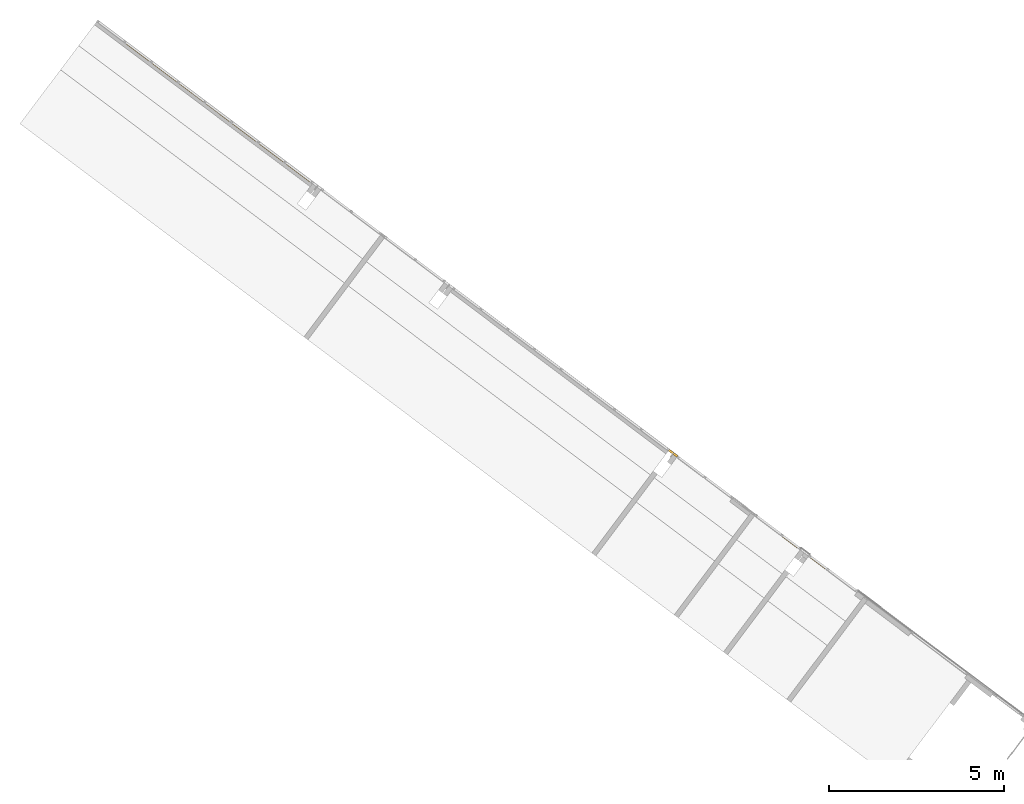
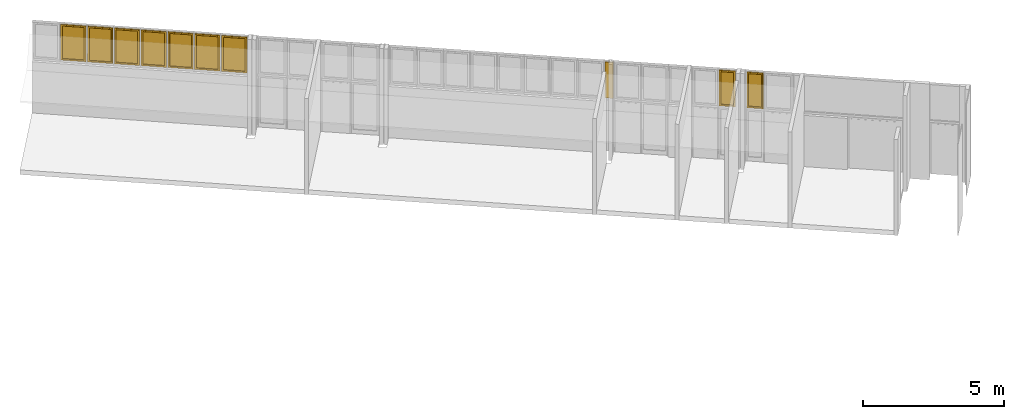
# One storey, part 11 of 18: 9 windows, 1 door, 1 element without a shape of its own.
"""IFC2X3 building model written with IfcOpenShell, lengths in metres."""

import ifcopenshell
import ifcopenshell.guid

model = None  # the IFC model being written
_history = None  # IfcOwnerHistory: only IFC2X3 demands one
_inside = {}  # id of a spatial element -> (the spatial element, [elements in it])
_under = {}  # id of a project, library or spatial element -> (it, [spatial elements below it])
_declared = {}  # id of a project -> (the project, [libraries it declares])
_typed = {}  # id of a type object -> (the type object, [elements of that type])
_made_of = {}  # id of a material, layer set ... -> (it, [elements and type objects made of it])


def new_model(schema):
    """Start an empty IFC model of exactly this schema.

    Asked for "IFC4X3", IfcOpenShell would pick the latest addendum, in which some entities
    have other attributes; the version numbers below select the first issue.
    IFC2X3 requires an IfcOwnerHistory on every rooted entity: one is made here for all.
    """
    global model, _history
    if schema == "IFC4X3":
        model = ifcopenshell.file(schema_version=(4, 3, 0, 0))
    else:
        model = ifcopenshell.file(schema=schema)
    _inside.clear()
    _under.clear()
    _declared.clear()
    _typed.clear()
    _made_of.clear()
    _history = None
    if model.schema == "IFC2X3":
        org = make("IfcOrganization", Name="unknown")
        user = make(
            "IfcPersonAndOrganization",
            ThePerson=make("IfcPerson", FamilyName="unknown"),
            TheOrganization=org,
        )
        app = make(
            "IfcApplication",
            ApplicationDeveloper=org,
            Version="unknown",
            ApplicationFullName="unknown",
            ApplicationIdentifier="unknown",
        )
        _history = make(
            "IfcOwnerHistory",
            OwningUser=user,
            OwningApplication=app,
            ChangeAction="ADDED",
            CreationDate=0,
        )
    return model


def make(cls, **values):
    """One entity of the class cls with the attributes given. An attribute that is None is left unset."""
    return model.create_entity(
        cls, **{name: value for name, value in values.items() if value is not None}
    )


def entity(cls, *values):
    """Any entity or typed value of the class cls, its attributes in the order of the schema. None: left unset."""
    e = model.create_entity(cls)
    for i, value in enumerate(values):
        if value is not None:
            e[i] = value
    return e


def rooted(cls, **values):
    """An entity with a GlobalId (a new one), such as an element, a storey or a relation."""
    return make(cls, GlobalId=ifcopenshell.guid.new(), OwnerHistory=_history, **values)


def si_unit(unit_type, name, prefix=None):
    """IfcSIUnit, for example si_unit("LENGTHUNIT", "METRE", prefix="MILLI")."""
    return make("IfcSIUnit", UnitType=unit_type, Prefix=prefix, Name=name)


def converted_unit(unit_type, name, factor, base, dimensions=None, offset=None):
    """IfcConversionBasedUnit, such as the inch: factor (a typed value) times the base unit."""
    return make(
        "IfcConversionBasedUnit"
        if offset is None
        else "IfcConversionBasedUnitWithOffset",
        ConversionOffset=offset,
        Dimensions=None
        if dimensions is None
        else entity("IfcDimensionalExponents", *dimensions),
        UnitType=unit_type,
        Name=name,
        ConversionFactor=make(
            "IfcMeasureWithUnit", ValueComponent=factor, UnitComponent=base
        ),
    )


def derived_unit(unit_type, elements):
    """IfcDerivedUnit: a product of units, each with its exponent."""
    return make(
        "IfcDerivedUnit",
        Elements=[
            make("IfcDerivedUnitElement", Unit=unit, Exponent=power)
            for unit, power in elements
        ],
        UnitType=unit_type,
    )


def assignment(units):
    """IfcUnitAssignment: the units of a project."""
    return None if units is None else make("IfcUnitAssignment", Units=units)


def point(xyz):
    """IfcCartesianPoint."""
    return None if xyz is None else make("IfcCartesianPoint", Coordinates=xyz)


def direction(xyz):
    """IfcDirection."""
    return None if xyz is None else make("IfcDirection", DirectionRatios=xyz)


def frame(location, z_axis=None, x_axis=None):
    """IfcAxis2Placement3D, a coordinate frame: its origin and axes. An axis left out is left unset."""
    return make(
        "IfcAxis2Placement3D",
        Location=point(location),
        Axis=direction(z_axis),
        RefDirection=direction(x_axis),
    )


def frame_2d(location, x_axis=None):
    """IfcAxis2Placement2D, a coordinate frame in the plane: its origin and x axis."""
    return make(
        "IfcAxis2Placement2D", Location=point(location), RefDirection=direction(x_axis)
    )


def origin():
    """The frame at (0, 0, 0) with its axes left unset."""
    return frame((0.0, 0.0, 0.0))


def origin_2d_with_axis():
    """The frame at (0, 0) in the plane with the x axis (1, 0) written out."""
    return frame_2d((0.0, 0.0), x_axis=(1.0, 0.0))


def place(relative_to, where):
    """IfcLocalPlacement: puts the frame where relative to a parent placement (None: the world)."""
    return make(
        "IfcLocalPlacement", PlacementRelTo=relative_to, RelativePlacement=where
    )


def context(
    kind, dimensions, precision=None, world=None, true_north=None, identifier=None
):
    """IfcGeometricRepresentationContext, for example the 3D "Model" context."""
    return make(
        "IfcGeometricRepresentationContext",
        ContextIdentifier=identifier,
        ContextType=kind,
        CoordinateSpaceDimension=dimensions,
        Precision=precision,
        WorldCoordinateSystem=world,
        TrueNorth=true_north,
    )


def subcontext(parent, identifier, kind, view, scale=None):
    """IfcGeometricRepresentationSubContext, for example "Body" below "Model"."""
    return make(
        "IfcGeometricRepresentationSubContext",
        ContextIdentifier=identifier,
        ContextType=kind,
        ParentContext=parent,
        TargetScale=scale,
        TargetView=view,
    )


def project(units=None, contexts=None):
    """IfcProject with its units and contexts."""
    return rooted(
        "IfcProject",
        Name="project",
        RepresentationContexts=contexts,
        UnitsInContext=assignment(units),
    )


def spatial(cls, under=None, at=None, **own):
    """A site, building, storey or space (cls), placed at a placement, below another one or the project."""
    s = rooted(cls, ObjectPlacement=at, **own)
    if under is not None:
        _under.setdefault(under.id(), (under, []))[1].append(s)
    return s


def profile(cls, at=None, kind="AREA", **sizes):
    """A parametric profile (cls). Its sizes go by their IFC names, for example OverallWidth=200.0."""
    return make(cls, ProfileType=kind, Position=at, **sizes)


def rectangle(**sizes):
    """IfcRectangleProfileDef."""
    return profile("IfcRectangleProfileDef", **sizes)


def extrude(swept, where, along, depth):
    """IfcExtrudedAreaSolid: the profile swept, set in the frame where, extruded along a direction by depth."""
    return make(
        "IfcExtrudedAreaSolid",
        SweptArea=swept,
        Position=where,
        ExtrudedDirection=direction(along),
        Depth=depth,
    )


def faces_of(points, faces, orient=None, outer=None):
    """IfcFace entities. A face is a list of loops; a loop is a list of indices into points, from 0.

    orient and outer hold one flag for each loop. By default every Orientation is true, the
    first loop of a face is its IfcFaceOuterBound and the others are IfcFaceBound.
    """
    made = []
    for i, loops in enumerate(faces):
        bounds = []
        for j, loop in enumerate(loops):
            is_outer = j == 0 if outer is None else outer[i][j]
            bounds.append(
                make(
                    "IfcFaceOuterBound" if is_outer else "IfcFaceBound",
                    Bound=make("IfcPolyLoop", Polygon=[points[k] for k in loop]),
                    Orientation=True if orient is None else orient[i][j],
                )
            )
        made.append(make("IfcFace", Bounds=bounds))
    return made


def faceted_brep(points, faces, orient=None, outer=None, voids=None):
    """IfcFacetedBrep: a solid bounded by flat faces; with voids (closed shells), ...WithVoids."""
    shared = [point(p) for p in points]
    hull = make("IfcClosedShell", CfsFaces=faces_of(shared, faces, orient, outer))
    if voids is None:
        return make("IfcFacetedBrep", Outer=hull)
    return make(
        "IfcFacetedBrepWithVoids",
        Outer=hull,
        Voids=[
            make(cls, CfsFaces=faces_of(shared, fs, o, b)) for cls, fs, o, b in voids
        ],
    )


def shape(context_of_items, identifier, shape_type, items):
    """IfcShapeRepresentation: the items that make up one representation, for example the "Body"."""
    return make(
        "IfcShapeRepresentation",
        ContextOfItems=context_of_items,
        RepresentationIdentifier=identifier,
        RepresentationType=shape_type,
        Items=items,
    )


def source(mapping_origin, context_of_items, identifier, shape_type, items):
    """IfcRepresentationMap: a shape defined once, which mapped items show again and again."""
    return make(
        "IfcRepresentationMap",
        MappingOrigin=mapping_origin,
        MappedRepresentation=shape(context_of_items, identifier, shape_type, items),
    )


def transform(
    local_origin,
    x_axis=None,
    y_axis=None,
    z_axis=None,
    scale=None,
    scale2=None,
    scale3=None,
    uniform=True,
):
    """IfcCartesianTransformationOperator3D, or its non-uniform kind. x_axis, y_axis, z_axis: its Axis1, 2, 3."""
    if uniform:
        return make(
            "IfcCartesianTransformationOperator3D",
            Axis1=direction(x_axis),
            Axis2=direction(y_axis),
            LocalOrigin=point(local_origin),
            Scale=scale,
            Axis3=direction(z_axis),
        )
    return make(
        "IfcCartesianTransformationOperator3DnonUniform",
        Axis1=direction(x_axis),
        Axis2=direction(y_axis),
        LocalOrigin=point(local_origin),
        Scale=scale,
        Axis3=direction(z_axis),
        Scale2=scale2,
        Scale3=scale3,
    )


def mapped(mapping_source, mapping_target):
    """IfcMappedItem: shows the shape of a source again, moved by a transform."""
    return make(
        "IfcMappedItem", MappingSource=mapping_source, MappingTarget=mapping_target
    )


def material(Name=None, Category=None):
    """IfcMaterial."""
    return make("IfcMaterial", Name=Name, Category=Category)


def material_list(materials):
    """IfcMaterialList."""
    return make("IfcMaterialList", Materials=materials)


def made_of(thing, what):
    """Note that an element or type object is made of a material, layer set ...; save() writes the relation."""
    if what is not None:
        _made_of.setdefault(what.id(), (what, []))[1].append(thing)
    return thing


def type_object(cls, material=None, **own):
    """A type object (cls), such as IfcWallType, which elements share."""
    return made_of(rooted(cls, **own), material)


def type_shapes(of_type, sources):
    """Give a type object the sources (RepresentationMaps) that its elements show as mapped items."""
    of_type.RepresentationMaps = sources


def element(
    cls,
    number,
    at=None,
    inside=None,
    cuts=None,
    type_object=None,
    material=None,
    context=None,
    identifier="Body",
    shape_type=None,
    held_by="IfcProductDefinitionShape",
    body=None,
    shapes=None,
    **own,
):
    """One element of the class cls, such as IfcWall. Its Tag is "e" and its number.

    at: its placement. inside: the storey or other place that contains it. cuts: it is an
    opening in that element (IfcRelVoidsElement). A single representation is given by context,
    identifier, shape_type and body (its items); several are given by shapes. held_by: the class
    of the entity that holds the representations. save() writes the other relations.
    """
    e = rooted(cls, Tag="e%d" % number, ObjectPlacement=at, **own)
    if body is not None:
        shapes = [shape(context, identifier, shape_type, body)]
    if shapes is not None:
        e.Representation = make(held_by, Representations=shapes)
    if inside is not None:
        _inside.setdefault(inside.id(), (inside, []))[1].append(e)
    if cuts is not None:
        rooted(
            "IfcRelVoidsElement", RelatingBuildingElement=cuts, RelatedOpeningElement=e
        )
    if type_object is not None:
        _typed.setdefault(type_object.id(), (type_object, []))[1].append(e)
    return made_of(e, material)


def aggregate(whole, parts):
    """IfcRelAggregates: a whole, such as a stair, and the parts it consists of."""
    return rooted("IfcRelAggregates", RelatingObject=whole, RelatedObjects=parts)


def save(model, path):
    """Write the relations noted so far, then the file.

    IfcRelAggregates (storeys below a building ...), IfcRelContainedInSpatialStructure (elements
    in a storey), IfcRelDefinesByType, IfcRelAssociatesMaterial and IfcRelDeclares: one each for
    every whole, place, type object, material and project.
    """
    for whole, parts in _under.values():
        aggregate(whole, parts)
    for where, things in _inside.values():
        rooted(
            "IfcRelContainedInSpatialStructure",
            RelatedElements=things,
            RelatingStructure=where,
        )
    for kind, things in _typed.values():
        rooted("IfcRelDefinesByType", RelatedObjects=things, RelatingType=kind)
    for what, things in _made_of.values():
        rooted("IfcRelAssociatesMaterial", RelatedObjects=things, RelatingMaterial=what)
    for by, libraries in _declared.values():
        rooted("IfcRelDeclares", RelatingContext=by, RelatedDefinitions=libraries)
    model.write(path)


model = new_model("IFC2X3")

# Units and contexts
model_context = context("Model", 3, precision=1e-05, world=origin(), true_north=direction((6.123031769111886e-17, 1.0)))
body_context = subcontext(model_context, "Body", "Model", "MODEL_VIEW")
ifc_project = project(units=[si_unit("LENGTHUNIT", "METRE"), si_unit("AREAUNIT", "SQUARE_METRE"), si_unit("VOLUMEUNIT", "CUBIC_METRE"), converted_unit("PLANEANGLEUNIT", "DEGREE", entity("IfcRatioMeasure", 0.017453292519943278), si_unit("PLANEANGLEUNIT", "RADIAN"), dimensions=[0, 0, 0, 0, 0, 0, 0]), si_unit("MASSUNIT", "GRAM", prefix="KILO"), derived_unit("MASSDENSITYUNIT", [(si_unit("MASSUNIT", "GRAM", prefix="KILO"), 1), (si_unit("LENGTHUNIT", "METRE"), -3)]), derived_unit("IONCONCENTRATIONUNIT", [(si_unit("MASSUNIT", "GRAM", prefix="KILO"), 1), (si_unit("LENGTHUNIT", "METRE"), -3)]), derived_unit("MOMENTOFINERTIAUNIT", [(si_unit("LENGTHUNIT", "METRE"), 4)]), si_unit("TIMEUNIT", "SECOND"), si_unit("FREQUENCYUNIT", "HERTZ"), si_unit("THERMODYNAMICTEMPERATUREUNIT", "DEGREE_CELSIUS"), derived_unit("THERMALTRANSMITTANCEUNIT", [(si_unit("MASSUNIT", "GRAM", prefix="KILO"), 1), (si_unit("THERMODYNAMICTEMPERATUREUNIT", "KELVIN"), -1), (si_unit("TIMEUNIT", "SECOND"), -3)]), derived_unit("THERMALCONDUCTANCEUNIT", [(si_unit("MASSUNIT", "GRAM", prefix="KILO"), 1), (si_unit("THERMODYNAMICTEMPERATUREUNIT", "KELVIN"), -1), (si_unit("TIMEUNIT", "SECOND"), -3), (si_unit("LENGTHUNIT", "METRE"), 1)]), derived_unit("VOLUMETRICFLOWRATEUNIT", [(si_unit("LENGTHUNIT", "METRE"), 3), (si_unit("TIMEUNIT", "SECOND"), -1)]), derived_unit("MASSFLOWRATEUNIT", [(si_unit("MASSUNIT", "GRAM", prefix="KILO"), 1), (si_unit("TIMEUNIT", "SECOND"), -1)]), derived_unit("ROTATIONALFREQUENCYUNIT", [(si_unit("TIMEUNIT", "SECOND"), -1)]), si_unit("ELECTRICCURRENTUNIT", "AMPERE"), si_unit("ELECTRICVOLTAGEUNIT", "VOLT"), si_unit("POWERUNIT", "WATT"), si_unit("FORCEUNIT", "NEWTON", prefix="KILO"), si_unit("ILLUMINANCEUNIT", "LUX"), si_unit("LUMINOUSFLUXUNIT", "LUMEN"), si_unit("LUMINOUSINTENSITYUNIT", "CANDELA"), derived_unit("USERDEFINED", [(si_unit("MASSUNIT", "GRAM", prefix="KILO"), -1), (si_unit("LENGTHUNIT", "METRE"), -2), (si_unit("TIMEUNIT", "SECOND"), 3), (si_unit("LUMINOUSFLUXUNIT", "LUMEN"), 1)]), derived_unit("USERDEFINED", [(si_unit("MASSUNIT", "GRAM", prefix="KILO"), 1), (si_unit("TIMEUNIT", "SECOND"), -3), (si_unit("LENGTHUNIT", "METRE"), 3), (si_unit("ELECTRICCURRENTUNIT", "AMPERE"), -2)]), derived_unit("SOUNDPOWERUNIT", [(si_unit("MASSUNIT", "GRAM", prefix="KILO"), 1), (si_unit("TIMEUNIT", "SECOND"), -3), (si_unit("LENGTHUNIT", "METRE"), 2)]), derived_unit("SOUNDPRESSUREUNIT", [(si_unit("MASSUNIT", "GRAM", prefix="KILO"), 1), (si_unit("LENGTHUNIT", "METRE"), -1), (si_unit("TIMEUNIT", "SECOND"), -2)]), derived_unit("LINEARVELOCITYUNIT", [(si_unit("LENGTHUNIT", "METRE"), 1), (si_unit("TIMEUNIT", "SECOND"), -1)]), si_unit("PRESSUREUNIT", "PASCAL"), derived_unit("USERDEFINED", [(si_unit("MASSUNIT", "GRAM", prefix="KILO"), 1), (si_unit("LENGTHUNIT", "METRE"), -2), (si_unit("TIMEUNIT", "SECOND"), -2)]), derived_unit("LINEARFORCEUNIT", [(si_unit("MASSUNIT", "GRAM", prefix="KILO"), 1), (si_unit("TIMEUNIT", "SECOND"), -2)]), derived_unit("PLANARFORCEUNIT", [(si_unit("MASSUNIT", "GRAM", prefix="KILO"), 1), (si_unit("LENGTHUNIT", "METRE"), -1), (si_unit("TIMEUNIT", "SECOND"), -2)]), derived_unit("SPECIFICHEATCAPACITYUNIT", [(si_unit("THERMODYNAMICTEMPERATUREUNIT", "KELVIN"), -1), (si_unit("LENGTHUNIT", "METRE"), 2), (si_unit("TIMEUNIT", "SECOND"), -2)]), derived_unit("HEATINGVALUEUNIT", [(si_unit("LENGTHUNIT", "METRE"), 2), (si_unit("TIMEUNIT", "SECOND"), -2)]), derived_unit("VAPORPERMEABILITYUNIT", [(si_unit("LENGTHUNIT", "METRE"), -1), (si_unit("TIMEUNIT", "SECOND"), 1)]), derived_unit("DYNAMICVISCOSITYUNIT", [(si_unit("MASSUNIT", "GRAM", prefix="KILO"), 1), (si_unit("TIMEUNIT", "SECOND"), -1), (si_unit("LENGTHUNIT", "METRE"), -1)]), derived_unit("THERMALEXPANSIONCOEFFICIENTUNIT", [(si_unit("THERMODYNAMICTEMPERATUREUNIT", "KELVIN"), -1)]), derived_unit("MODULUSOFELASTICITYUNIT", [(si_unit("MASSUNIT", "GRAM", prefix="KILO"), 1), (si_unit("LENGTHUNIT", "METRE"), -1), (si_unit("TIMEUNIT", "SECOND"), -2)]), derived_unit("ISOTHERMALMOISTURECAPACITYUNIT", [(si_unit("LENGTHUNIT", "METRE"), 3), (si_unit("MASSUNIT", "GRAM", prefix="KILO"), -1)]), derived_unit("MOISTUREDIFFUSIVITYUNIT", [(si_unit("TIMEUNIT", "SECOND"), -1), (si_unit("LENGTHUNIT", "METRE"), 2)])], contexts=[model_context])

# Site, building, storey
site_placement = place(None, frame((0.0, 0.0, 235.0), z_axis=(0.0, 0.0, 1.0), x_axis=(-0.7996477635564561, 0.6004693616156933, 0.0)))
site = spatial("IfcSite", under=ifc_project, at=site_placement, Name="Default", CompositionType="ELEMENT")
building_placement = place(site_placement, origin())
building = spatial("IfcBuilding", under=site, at=building_placement, CompositionType="ELEMENT")
storey_placement = place(building_placement, frame((0.0, 0.0, -4.459999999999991)))
storey = spatial("IfcBuildingStorey", under=building, at=storey_placement, Name="PS1- Vestuari", CompositionType="ELEMENT", Elevation=-4.459999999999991)

# Curtain wall, windows, door
curtain_wall_type = type_object("IfcCurtainWallType", Name="Muro cortina:MC- EXT- AL6", PredefinedType="NOTDEFINED")
curtain_wall_placement = place(storey_placement, frame((0.0, 0.0, 4.459999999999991)))
curtain_wall = element("IfcCurtainWall", 1, at=curtain_wall_placement, inside=storey, type_object=curtain_wall_type, Name="Muro cortina:MC- EXT- AL6", ObjectType="Muro cortina:MC- EXT- AL6")
ifc_material_1 = material(Name="_Vidre")
ifc_material_2 = material(Name="_Alumini- T1- Perfil")
ifc_material_list_1 = material_list([ifc_material_1, ifc_material_2])
window_style_1 = type_object("IfcWindowStyle", Name="MC- Alu- Conjunt finestra basculant- 68x68 cm:MC- Alu- Conjunt finestra basculant- 68x68 cm", ConstructionType="NOTDEFINED", OperationType="NOTDEFINED", ParameterTakesPrecedence=False, Sizeable=False, material=ifc_material_list_1)
shared_shape_1 = source(origin(), body_context, "Body", "Brep", [
    faceted_brep([(0.24391171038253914, -0.03559830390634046, 0.051999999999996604), (-0.2439117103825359, -0.035598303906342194, 0.051999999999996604), (-0.243911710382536, -0.011598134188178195, 0.051999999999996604), (0.2439117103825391, -0.01159813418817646, 0.051999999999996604), (0.24391171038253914, -0.03559830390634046, 1.4953027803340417), (0.2439117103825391, -0.01159813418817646, 1.4953027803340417), (-0.24391171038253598, -0.011598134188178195, 1.4953027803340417), (-0.2439117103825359, -0.035598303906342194, 1.4953027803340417)], [[[0, 1, 2, 3]], [[4, 0, 3, 5]], [[5, 3, 2, 6]], [[6, 2, 1, 7]], [[7, 1, 0, 4]], [[4, 5, 6, 7]]]),
    faceted_brep([(-0.228210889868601, -0.009998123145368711, 1.4796019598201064), (-0.2282108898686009, -0.009998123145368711, 0.06789804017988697), (-0.2282108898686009, -0.00799810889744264, 0.06789804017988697), (-0.2282108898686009, -0.00799810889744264, 1.4796019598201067), (-0.2571089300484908, -0.007998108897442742, 1.5084999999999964), (0.25710893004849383, -0.007998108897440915, 1.5084999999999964), (0.25710893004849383, -0.007998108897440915, 0.03899999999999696), (-0.2571089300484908, -0.007998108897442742, 0.03899999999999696), (0.22821088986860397, -0.00799810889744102, 1.4796019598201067), (0.22821088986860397, -0.00799810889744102, 0.06789804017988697), (0.22821088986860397, -0.009998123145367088, 0.06789804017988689), (0.22821088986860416, -0.009998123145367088, 1.4796019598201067), (0.24391171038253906, -0.009998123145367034, 1.4953027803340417), (-0.243911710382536, -0.009998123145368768, 1.4953027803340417), (-0.243911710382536, -0.009998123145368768, 0.05219721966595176), (0.24391171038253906, -0.009998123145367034, 0.05219721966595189), (-0.2439117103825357, -0.04079986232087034, 1.4953027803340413), (-0.2439117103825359, -0.04079986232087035, 0.05219721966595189), (0.24391171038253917, -0.04079986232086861, 0.05219721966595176), (0.2439117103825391, -0.04079986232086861, 1.4953027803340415), (0.22821088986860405, -0.04079986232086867, 1.4796019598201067), (-0.2282108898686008, -0.040799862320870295, 1.4796019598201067), (-0.2282108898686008, -0.040799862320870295, 0.06789804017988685), (0.22821088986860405, -0.04079986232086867, 0.06789804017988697), (-0.22821088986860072, -0.06800005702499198, 1.4796019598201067), (-0.22821088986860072, -0.06800005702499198, 0.06789804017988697), (0.22821088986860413, -0.06800005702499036, 0.06789804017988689), (0.22821088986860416, -0.06800005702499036, 1.4796019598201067), (0.2746128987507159, -0.0680000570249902, 1.5260039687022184), (-0.27461289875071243, -0.06800005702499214, 1.5260039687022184), (-0.27461289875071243, -0.06800005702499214, 0.021496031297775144), (0.2746128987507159, -0.0680000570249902, 0.021496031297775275), (-0.27461289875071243, -0.06450003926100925, 1.5260039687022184), (-0.27461289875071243, -0.06450003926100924, 0.021496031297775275), (0.2746128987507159, -0.06450003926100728, 0.021496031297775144), (0.2746128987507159, -0.0645000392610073, 1.5260039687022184), (0.25710893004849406, -0.06450003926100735, 1.5084999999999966), (-0.2571089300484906, -0.06450003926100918, 1.5084999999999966), (-0.2571089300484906, -0.06450003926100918, 0.03899999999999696), (0.25710893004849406, -0.06450003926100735, 0.03899999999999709)], [[[0, 1, 2, 3]], [[4, 5, 6, 7], [8, 3, 2, 9]], [[1, 10, 9, 2]], [[0, 11, 10, 1], [12, 13, 14, 15]], [[16, 17, 14, 13]], [[17, 18, 15, 14]], [[16, 19, 18, 17], [20, 21, 22, 23]], [[24, 25, 22, 21]], [[25, 26, 23, 22]], [[24, 27, 26, 25], [28, 29, 30, 31]], [[32, 33, 30, 29]], [[33, 34, 31, 30]], [[32, 35, 34, 33], [36, 37, 38, 39]], [[4, 7, 38, 37]], [[7, 6, 39, 38]], [[10, 11, 8, 9]], [[18, 19, 12, 15]], [[26, 27, 20, 23]], [[34, 35, 28, 31]], [[6, 5, 36, 39]], [[11, 0, 3, 8]], [[19, 16, 13, 12]], [[27, 24, 21, 20]], [[35, 32, 29, 28]], [[5, 4, 37, 36]]], outer=[[True], [True, False], [True], [False, True], [True], [True], [True, False], [True], [True], [False, True], [True], [True], [True, False], [True], [True], [True], [True], [True], [True], [True], [True], [True], [True], [True], [True]]),
    faceted_brep([(0.23319318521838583, 0.0, 1.484693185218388), (0.2331931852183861, 0.0, 0.06280681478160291), (0.2331931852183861, -0.0040000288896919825, 0.06280681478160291), (0.23319318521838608, -0.0040000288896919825, 1.4846931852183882), (-0.23319318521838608, -0.0040000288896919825, 1.4846931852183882), (-0.2331931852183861, -0.0040000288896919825, 0.06280681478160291), (0.26859980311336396, -0.0040000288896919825, 1.5200998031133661), (-0.26859980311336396, -0.0040000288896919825, 1.5200998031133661), (-0.26859980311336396, -0.0040000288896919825, 0.02740019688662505), (0.26859980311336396, -0.0040000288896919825, 0.027400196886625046), (-0.2331931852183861, 0.0, 0.06280681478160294), (-0.2331931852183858, 0.0, 1.484693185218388), (-0.29599999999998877, 0.0, 1.547499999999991), (0.29599999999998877, 0.0, 1.547499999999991), (0.29599999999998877, 0.0, 0.0), (-0.29599999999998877, 0.0, 0.0), (0.29599999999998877, -0.05999999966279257, 1.547499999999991), (0.29599999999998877, -0.05999999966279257, 0.0), (-0.29599999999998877, -0.05999999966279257, 0.0), (-0.29599999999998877, -0.05999999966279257, 1.547499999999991), (-0.2685998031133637, -0.05999999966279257, 1.520099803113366), (0.26859980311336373, -0.05999999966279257, 1.520099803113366), (0.26859980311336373, -0.05999999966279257, 0.02740019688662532), (-0.26859980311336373, -0.05999999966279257, 0.027400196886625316)], [[[0, 1, 2, 3]], [[4, 3, 2, 5], [6, 7, 8, 9]], [[1, 10, 5, 2]], [[0, 11, 10, 1], [12, 13, 14, 15]], [[16, 17, 14, 13]], [[17, 18, 15, 14]], [[16, 19, 18, 17], [20, 21, 22, 23]], [[6, 9, 22, 21]], [[9, 8, 23, 22]], [[10, 11, 4, 5]], [[18, 19, 12, 15]], [[8, 7, 20, 23]], [[11, 0, 3, 4]], [[19, 16, 13, 12]], [[7, 6, 21, 20]]], outer=[[True], [False, True], [True], [False, True], [True], [True], [True, False], [True], [True], [True], [True], [True], [True], [True], [True]]),
])
type_shapes(window_style_1, [shared_shape_1])
window_1_placement = place(curtain_wall_placement, frame((48.69914768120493, -40.46519175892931, -2.164999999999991), z_axis=(0.0, 0.0, 1.0), x_axis=(-1.0, 0.0, 0.0)))
window_1 = element("IfcWindow", 2, at=window_1_placement, type_object=window_style_1, material=ifc_material_list_1, Name="MC- Alu- Conjunt finestra basculant- 68x68 cm:MC- Alu- Conjunt finestra basculant- 68x68 cm", ObjectType="MC- Alu- Conjunt finestra basculant- 68x68 cm:MC- Alu- Conjunt finestra basculant- 68x68 cm", OverallHeight=1.5474999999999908, OverallWidth=0.591999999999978, context=body_context, shape_type="MappedRepresentation", body=[
    mapped(shared_shape_1, transform((0.0, 0.0, 0.0), scale=1.0)),
])
window_2_placement = place(curtain_wall_placement, frame((49.691147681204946, -40.46519175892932, -2.164999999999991), z_axis=(0.0, 0.0, 1.0), x_axis=(-1.0, 0.0, 0.0)))
window_2 = element("IfcWindow", 3, at=window_2_placement, type_object=window_style_1, material=ifc_material_list_1, Name="MC- Alu- Conjunt finestra basculant- 68x68 cm:MC- Alu- Conjunt finestra basculant- 68x68 cm", ObjectType="MC- Alu- Conjunt finestra basculant- 68x68 cm:MC- Alu- Conjunt finestra basculant- 68x68 cm", OverallHeight=1.5474999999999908, OverallWidth=0.591999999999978, context=body_context, shape_type="MappedRepresentation", body=[
    mapped(shared_shape_1, transform((0.0, 0.0, 0.0), scale=1.0)),
])
ifc_material_3 = material(Name="_Aillament")
ifc_material_list_2 = material_list([ifc_material_2, ifc_material_3])
door_style = type_object("IfcDoorStyle", Name="MC- Alu- panell especific xapa:MC- Alu- panell especific xapa", ConstructionType="NOTDEFINED", OperationType="NOTDEFINED", ParameterTakesPrecedence=False, Sizeable=False, material=ifc_material_list_2)
shared_shape_2 = source(origin(), body_context, "Body", "SweptSolid", [
    extrude(rectangle(XDim=0.005999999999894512, YDim=0.30600000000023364, at=origin_2d_with_axis()), frame((0.0, -0.057000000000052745, 0.0), z_axis=(0.0, 0.0, 1.0), x_axis=(0.0, -1.0, 0.0)), (0.0, 0.0, 1.0), 1.5474999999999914),
    extrude(rectangle(XDim=0.30600000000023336, YDim=0.048000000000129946, at=origin_2d_with_axis()), frame((0.0, -0.030000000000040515, 0.0)), (0.0, 0.0, 1.0), 1.5474999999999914),
    extrude(rectangle(XDim=0.005999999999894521, YDim=0.3060000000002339, at=origin_2d_with_axis()), frame((0.0, -0.003000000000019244, 0.0), z_axis=(0.0, 0.0, 1.0), x_axis=(0.0, -1.0, 0.0)), (0.0, 0.0, 1.0), 1.5474999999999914),
])
type_shapes(door_style, [shared_shape_2])
door_placement = place(curtain_wall_placement, frame((53.89814768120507, -40.4651917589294, -2.164999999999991), z_axis=(0.0, 0.0, 1.0), x_axis=(-1.0, 0.0, 0.0)))
door = element("IfcDoor", 4, at=door_placement, type_object=door_style, material=ifc_material_list_2, Name="MC- Alu- panell especific xapa:MC- Alu- panell especific xapa", ObjectType="MC- Alu- panell especific xapa:MC- Alu- panell especific xapa", OverallHeight=1.5474999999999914, OverallWidth=0.30600000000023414, context=body_context, shape_type="MappedRepresentation", body=[
    mapped(shared_shape_2, transform((0.0, 0.0, 0.0), scale=1.0)),
])
window_style_2 = type_object("IfcWindowStyle", Name="MC- Alu- Conjunt finestra basculant- 68x68 cm:MC- Alu- Conjunt finestra basculant- 68x68 cm", ConstructionType="NOTDEFINED", OperationType="NOTDEFINED", ParameterTakesPrecedence=False, Sizeable=False, material=ifc_material_list_1)
shared_shape_3 = source(origin(), body_context, "Body", "Brep", [
    faceted_brep([(0.399911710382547, -0.035598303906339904, 0.051999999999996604), (-0.39991171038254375, -0.03559830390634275, 0.051999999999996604), (-0.3999117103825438, -0.011598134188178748, 0.051999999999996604), (0.39991171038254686, -0.011598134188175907, 0.051999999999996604), (0.399911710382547, -0.035598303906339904, 1.4953027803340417), (0.39991171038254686, -0.011598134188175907, 1.4953027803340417), (-0.39991171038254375, -0.011598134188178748, 1.4953027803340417), (-0.39991171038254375, -0.03559830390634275, 1.4953027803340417)], [[[0, 1, 2, 3]], [[4, 0, 3, 5]], [[5, 3, 2, 6]], [[6, 2, 1, 7]], [[7, 1, 0, 4]], [[4, 5, 6, 7]]]),
    faceted_brep([(-0.38421088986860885, -0.009998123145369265, 1.4796019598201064), (-0.38421088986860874, -0.009998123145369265, 0.06789804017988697), (-0.38421088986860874, -0.007998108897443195, 0.06789804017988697), (-0.38421088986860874, -0.007998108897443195, 1.4796019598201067), (-0.41310893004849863, -0.007998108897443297, 1.5084999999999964), (0.41310893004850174, -0.00799810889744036, 1.5084999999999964), (0.41310893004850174, -0.00799810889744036, 0.03899999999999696), (-0.41310893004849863, -0.007998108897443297, 0.03899999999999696), (0.38421088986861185, -0.007998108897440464, 1.4796019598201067), (0.38421088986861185, -0.007998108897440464, 0.06789804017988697), (0.38421088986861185, -0.009998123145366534, 0.06789804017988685), (0.38421088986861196, -0.009998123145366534, 1.4796019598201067), (0.3999117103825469, -0.009998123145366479, 1.4953027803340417), (-0.3999117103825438, -0.009998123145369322, 1.4953027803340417), (-0.3999117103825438, -0.009998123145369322, 0.05219721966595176), (0.3999117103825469, -0.009998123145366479, 0.05219721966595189), (-0.39991171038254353, -0.040799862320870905, 1.4953027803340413), (-0.3999117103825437, -0.040799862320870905, 0.05219721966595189), (0.3999117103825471, -0.04079986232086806, 0.05219721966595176), (0.3999117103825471, -0.04079986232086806, 1.4953027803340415), (0.38421088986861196, -0.040799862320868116, 1.4796019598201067), (-0.3842108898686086, -0.04079986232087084, 1.4796019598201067), (-0.3842108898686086, -0.04079986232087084, 0.06789804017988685), (0.38421088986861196, -0.040799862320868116, 0.06789804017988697), (-0.3842108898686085, -0.06800005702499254, 1.4796019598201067), (-0.3842108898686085, -0.06800005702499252, 0.06789804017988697), (0.3842108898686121, -0.0680000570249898, 0.06789804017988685), (0.38421088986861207, -0.0680000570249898, 1.4796019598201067), (0.4306128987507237, -0.06800005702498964, 1.5260039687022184), (-0.43061289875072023, -0.0680000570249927, 1.5260039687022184), (-0.43061289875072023, -0.0680000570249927, 0.021496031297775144), (0.4306128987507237, -0.06800005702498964, 0.021496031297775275), (-0.43061289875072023, -0.06450003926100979, 1.5260039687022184), (-0.43061289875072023, -0.06450003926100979, 0.021496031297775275), (0.4306128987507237, -0.06450003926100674, 0.021496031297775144), (0.4306128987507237, -0.06450003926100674, 1.5260039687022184), (0.4131089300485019, -0.0645000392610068, 1.5084999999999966), (-0.4131089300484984, -0.06450003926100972, 1.5084999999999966), (-0.4131089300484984, -0.06450003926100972, 0.03899999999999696), (0.4131089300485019, -0.0645000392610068, 0.03899999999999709)], [[[0, 1, 2, 3]], [[4, 5, 6, 7], [8, 3, 2, 9]], [[1, 10, 9, 2]], [[0, 11, 10, 1], [12, 13, 14, 15]], [[16, 17, 14, 13]], [[17, 18, 15, 14]], [[16, 19, 18, 17], [20, 21, 22, 23]], [[24, 25, 22, 21]], [[25, 26, 23, 22]], [[24, 27, 26, 25], [28, 29, 30, 31]], [[32, 33, 30, 29]], [[33, 34, 31, 30]], [[32, 35, 34, 33], [36, 37, 38, 39]], [[4, 7, 38, 37]], [[7, 6, 39, 38]], [[10, 11, 8, 9]], [[18, 19, 12, 15]], [[26, 27, 20, 23]], [[34, 35, 28, 31]], [[6, 5, 36, 39]], [[11, 0, 3, 8]], [[19, 16, 13, 12]], [[27, 24, 21, 20]], [[35, 32, 29, 28]], [[5, 4, 37, 36]]], outer=[[True], [True, False], [True], [False, True], [True], [True], [True, False], [True], [True], [False, True], [True], [True], [True, False], [True], [True], [True], [True], [True], [True], [True], [True], [True], [True], [True], [True]]),
    faceted_brep([(0.3891931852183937, 0.0, 1.484693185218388), (0.38919318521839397, 0.0, 0.06280681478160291), (0.38919318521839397, -0.0040000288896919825, 0.06280681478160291), (0.38919318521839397, -0.0040000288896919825, 1.4846931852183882), (-0.38919318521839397, -0.0040000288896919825, 1.4846931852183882), (-0.38919318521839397, -0.0040000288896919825, 0.06280681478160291), (0.4245998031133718, -0.0040000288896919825, 1.5200998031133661), (-0.4245998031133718, -0.0040000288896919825, 1.5200998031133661), (-0.4245998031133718, -0.0040000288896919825, 0.027400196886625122), (0.4245998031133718, -0.0040000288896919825, 0.027400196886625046), (-0.38919318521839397, 0.0, 0.062806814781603), (-0.3891931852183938, 0.0, 1.4846931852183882), (-0.4519999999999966, 0.0, 1.547499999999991), (0.4519999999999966, 0.0, 1.547499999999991), (0.4519999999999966, 0.0, 0.0), (-0.4519999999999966, 0.0, 0.0), (0.4519999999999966, -0.05999999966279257, 1.547499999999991), (0.4519999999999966, -0.05999999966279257, 0.0), (-0.4519999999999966, -0.05999999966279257, 0.0), (-0.4519999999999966, -0.05999999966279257, 1.547499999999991), (-0.42459980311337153, -0.05999999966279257, 1.520099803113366), (0.42459980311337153, -0.05999999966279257, 1.520099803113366), (0.42459980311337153, -0.05999999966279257, 0.02740019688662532), (-0.42459980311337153, -0.05999999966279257, 0.027400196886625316)], [[[0, 1, 2, 3]], [[4, 3, 2, 5], [6, 7, 8, 9]], [[1, 10, 5, 2]], [[0, 11, 10, 1], [12, 13, 14, 15]], [[16, 17, 14, 13]], [[17, 18, 15, 14]], [[16, 19, 18, 17], [20, 21, 22, 23]], [[6, 9, 22, 21]], [[9, 8, 23, 22]], [[10, 11, 4, 5]], [[18, 19, 12, 15]], [[8, 7, 20, 23]], [[11, 0, 3, 4]], [[19, 16, 13, 12]], [[7, 6, 21, 20]]], outer=[[True], [False, True], [True], [False, True], [True], [True], [True, False], [True], [True], [True], [True], [True], [True], [True], [True]]),
])
type_shapes(window_style_2, [shared_shape_3])
window_3_placement = place(curtain_wall_placement, frame((68.21314768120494, -40.46519175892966, -2.1649999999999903), z_axis=(0.0, 0.0, 1.0), x_axis=(-1.0, 0.0, 0.0)))
window_3 = element("IfcWindow", 5, at=window_3_placement, type_object=window_style_2, material=ifc_material_list_1, Name="MC- Alu- Conjunt finestra basculant- 68x68 cm:MC- Alu- Conjunt finestra basculant- 68x68 cm", ObjectType="MC- Alu- Conjunt finestra basculant- 68x68 cm:MC- Alu- Conjunt finestra basculant- 68x68 cm", OverallHeight=1.5474999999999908, OverallWidth=0.9039999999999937, context=body_context, shape_type="MappedRepresentation", body=[
    mapped(shared_shape_3, transform((0.0, 0.0, 0.0), scale=1.0)),
])
window_4_placement = place(curtain_wall_placement, frame((69.16714768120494, -40.46519175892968, -2.1649999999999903), z_axis=(0.0, 0.0, 1.0), x_axis=(-1.0, 0.0, 0.0)))
window_4 = element("IfcWindow", 6, at=window_4_placement, type_object=window_style_2, material=ifc_material_list_1, Name="MC- Alu- Conjunt finestra basculant- 68x68 cm:MC- Alu- Conjunt finestra basculant- 68x68 cm", ObjectType="MC- Alu- Conjunt finestra basculant- 68x68 cm:MC- Alu- Conjunt finestra basculant- 68x68 cm", OverallHeight=1.5474999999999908, OverallWidth=0.9039999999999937, context=body_context, shape_type="MappedRepresentation", body=[
    mapped(shared_shape_3, transform((0.0, 0.0, 0.0), scale=1.0)),
])
window_5_placement = place(curtain_wall_placement, frame((70.12114768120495, -40.4651917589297, -2.1649999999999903), z_axis=(0.0, 0.0, 1.0), x_axis=(-1.0, 0.0, 0.0)))
window_5 = element("IfcWindow", 7, at=window_5_placement, type_object=window_style_2, material=ifc_material_list_1, Name="MC- Alu- Conjunt finestra basculant- 68x68 cm:MC- Alu- Conjunt finestra basculant- 68x68 cm", ObjectType="MC- Alu- Conjunt finestra basculant- 68x68 cm:MC- Alu- Conjunt finestra basculant- 68x68 cm", OverallHeight=1.5474999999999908, OverallWidth=0.9039999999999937, context=body_context, shape_type="MappedRepresentation", body=[
    mapped(shared_shape_3, transform((0.0, 0.0, 0.0), scale=1.0)),
])
window_6_placement = place(curtain_wall_placement, frame((71.07514768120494, -40.46519175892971, -2.164999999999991), z_axis=(0.0, 0.0, 1.0), x_axis=(-1.0, 0.0, 0.0)))
window_6 = element("IfcWindow", 8, at=window_6_placement, type_object=window_style_2, material=ifc_material_list_1, Name="MC- Alu- Conjunt finestra basculant- 68x68 cm:MC- Alu- Conjunt finestra basculant- 68x68 cm", ObjectType="MC- Alu- Conjunt finestra basculant- 68x68 cm:MC- Alu- Conjunt finestra basculant- 68x68 cm", OverallHeight=1.5474999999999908, OverallWidth=0.9039999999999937, context=body_context, shape_type="MappedRepresentation", body=[
    mapped(shared_shape_3, transform((0.0, 0.0, 0.0), scale=1.0)),
])
window_7_placement = place(curtain_wall_placement, frame((72.02914768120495, -40.46519175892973, -2.164999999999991), z_axis=(0.0, 0.0, 1.0), x_axis=(-1.0, 0.0, 0.0)))
window_7 = element("IfcWindow", 9, at=window_7_placement, type_object=window_style_2, material=ifc_material_list_1, Name="MC- Alu- Conjunt finestra basculant- 68x68 cm:MC- Alu- Conjunt finestra basculant- 68x68 cm", ObjectType="MC- Alu- Conjunt finestra basculant- 68x68 cm:MC- Alu- Conjunt finestra basculant- 68x68 cm", OverallHeight=1.5474999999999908, OverallWidth=0.9039999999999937, context=body_context, shape_type="MappedRepresentation", body=[
    mapped(shared_shape_3, transform((0.0, 0.0, 0.0), scale=1.0)),
])
window_8_placement = place(curtain_wall_placement, frame((72.98314768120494, -40.46519175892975, -2.164999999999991), z_axis=(0.0, 0.0, 1.0), x_axis=(-1.0, 0.0, 0.0)))
window_8 = element("IfcWindow", 10, at=window_8_placement, type_object=window_style_2, material=ifc_material_list_1, Name="MC- Alu- Conjunt finestra basculant- 68x68 cm:MC- Alu- Conjunt finestra basculant- 68x68 cm", ObjectType="MC- Alu- Conjunt finestra basculant- 68x68 cm:MC- Alu- Conjunt finestra basculant- 68x68 cm", OverallHeight=1.5474999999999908, OverallWidth=0.9039999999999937, context=body_context, shape_type="MappedRepresentation", body=[
    mapped(shared_shape_3, transform((0.0, 0.0, 0.0), scale=1.0)),
])
window_style_3 = type_object("IfcWindowStyle", Name="MC- Alu- Conjunt finestra basculant- 68x68 cm:MC- Alu- Conjunt finestra basculant- 68x68 cm", ConstructionType="NOTDEFINED", OperationType="NOTDEFINED", ParameterTakesPrecedence=False, Sizeable=False, material=ifc_material_list_1)
shared_shape_4 = source(origin(), body_context, "Body", "Brep", [
    faceted_brep([(0.40591171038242, -0.03559830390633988, 0.051999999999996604), (-0.4059117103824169, -0.03559830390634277, 0.051999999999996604), (-0.40591171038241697, -0.01159813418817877, 0.051999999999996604), (0.4059117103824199, -0.011598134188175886, 0.051999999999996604), (0.40591171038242, -0.03559830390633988, 1.4953027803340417), (0.4059117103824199, -0.011598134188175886, 1.4953027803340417), (-0.405911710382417, -0.01159813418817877, 1.4953027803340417), (-0.4059117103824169, -0.03559830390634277, 1.4953027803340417)], [[[0, 1, 2, 3]], [[4, 0, 3, 5]], [[5, 3, 2, 6]], [[6, 2, 1, 7]], [[7, 1, 0, 4]], [[4, 5, 6, 7]]]),
    faceted_brep([(-0.390210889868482, -0.009998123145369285, 1.4796019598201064), (-0.3902108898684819, -0.009998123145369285, 0.06789804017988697), (-0.3902108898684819, -0.007998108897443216, 0.06789804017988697), (-0.3902108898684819, -0.007998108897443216, 1.4796019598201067), (-0.4191089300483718, -0.007998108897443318, 1.5084999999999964), (0.41910893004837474, -0.00799810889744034, 1.5084999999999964), (0.41910893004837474, -0.00799810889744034, 0.03899999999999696), (-0.4191089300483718, -0.007998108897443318, 0.03899999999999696), (0.39021088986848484, -0.007998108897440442, 1.4796019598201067), (0.39021088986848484, -0.007998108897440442, 0.06789804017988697), (0.39021088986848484, -0.009998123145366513, 0.06789804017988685), (0.3902108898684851, -0.009998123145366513, 1.4796019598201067), (0.40591171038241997, -0.009998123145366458, 1.4953027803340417), (-0.40591171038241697, -0.009998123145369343, 1.4953027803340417), (-0.40591171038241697, -0.009998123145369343, 0.05219721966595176), (0.40591171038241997, -0.009998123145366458, 0.05219721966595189), (-0.4059117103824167, -0.04079986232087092, 1.4953027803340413), (-0.40591171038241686, -0.040799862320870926, 0.05219721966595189), (0.4059117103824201, -0.04079986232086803, 0.05219721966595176), (0.4059117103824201, -0.04079986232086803, 1.4953027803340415), (0.390210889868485, -0.040799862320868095, 1.4796019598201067), (-0.39021088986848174, -0.04079986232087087, 1.4796019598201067), (-0.39021088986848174, -0.04079986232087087, 0.06789804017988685), (0.390210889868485, -0.040799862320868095, 0.06789804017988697), (-0.3902108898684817, -0.06800005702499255, 1.4796019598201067), (-0.3902108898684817, -0.06800005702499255, 0.06789804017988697), (0.3902108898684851, -0.06800005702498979, 0.06789804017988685), (0.39021088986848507, -0.06800005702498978, 1.4796019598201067), (0.4366128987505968, -0.06800005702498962, 1.5260039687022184), (-0.4366128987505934, -0.06800005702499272, 1.5260039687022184), (-0.4366128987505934, -0.06800005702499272, 0.021496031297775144), (0.4366128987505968, -0.06800005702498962, 0.021496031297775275), (-0.4366128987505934, -0.06450003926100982, 1.5260039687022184), (-0.4366128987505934, -0.0645000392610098, 0.021496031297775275), (0.4366128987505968, -0.06450003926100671, 0.021496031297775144), (0.4366128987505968, -0.06450003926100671, 1.5260039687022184), (0.41910893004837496, -0.06450003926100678, 1.5084999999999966), (-0.4191089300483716, -0.06450003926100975, 1.5084999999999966), (-0.4191089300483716, -0.06450003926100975, 0.03899999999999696), (0.41910893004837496, -0.06450003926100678, 0.03899999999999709)], [[[0, 1, 2, 3]], [[4, 5, 6, 7], [8, 3, 2, 9]], [[1, 10, 9, 2]], [[0, 11, 10, 1], [12, 13, 14, 15]], [[16, 17, 14, 13]], [[17, 18, 15, 14]], [[16, 19, 18, 17], [20, 21, 22, 23]], [[24, 25, 22, 21]], [[25, 26, 23, 22]], [[24, 27, 26, 25], [28, 29, 30, 31]], [[32, 33, 30, 29]], [[33, 34, 31, 30]], [[32, 35, 34, 33], [36, 37, 38, 39]], [[4, 7, 38, 37]], [[7, 6, 39, 38]], [[10, 11, 8, 9]], [[18, 19, 12, 15]], [[26, 27, 20, 23]], [[34, 35, 28, 31]], [[6, 5, 36, 39]], [[11, 0, 3, 8]], [[19, 16, 13, 12]], [[27, 24, 21, 20]], [[35, 32, 29, 28]], [[5, 4, 37, 36]]], outer=[[True], [True, False], [True], [False, True], [True], [True], [True, False], [True], [True], [False, True], [True], [True], [True, False], [True], [True], [True], [True], [True], [True], [True], [True], [True], [True], [True], [True]]),
    faceted_brep([(0.3951931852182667, 0.0, 1.484693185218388), (0.39519318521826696, 0.0, 0.06280681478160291), (0.39519318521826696, -0.0040000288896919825, 0.06280681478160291), (0.39519318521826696, -0.0040000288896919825, 1.4846931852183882), (-0.39519318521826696, -0.0040000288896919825, 1.4846931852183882), (-0.39519318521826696, -0.0040000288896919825, 0.06280681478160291), (0.43059980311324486, -0.0040000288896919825, 1.5200998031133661), (-0.43059980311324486, -0.0040000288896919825, 1.5200998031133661), (-0.43059980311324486, -0.0040000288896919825, 0.02740019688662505), (0.43059980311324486, -0.0040000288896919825, 0.027400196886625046), (-0.39519318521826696, 0.0, 0.06280681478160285), (-0.39519318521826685, 0.0, 1.4846931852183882), (-0.4579999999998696, 0.0, 1.547499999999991), (0.4579999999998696, 0.0, 1.547499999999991), (0.4579999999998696, 0.0, 0.0), (-0.4579999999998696, 0.0, 0.0), (0.4579999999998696, -0.05999999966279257, 1.547499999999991), (0.4579999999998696, -0.05999999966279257, 0.0), (-0.4579999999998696, -0.05999999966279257, 0.0), (-0.4579999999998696, -0.05999999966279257, 1.547499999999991), (-0.4305998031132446, -0.05999999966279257, 1.520099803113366), (0.4305998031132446, -0.05999999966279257, 1.520099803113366), (0.4305998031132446, -0.05999999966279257, 0.02740019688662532), (-0.4305998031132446, -0.05999999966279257, 0.027400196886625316)], [[[0, 1, 2, 3]], [[4, 3, 2, 5], [6, 7, 8, 9]], [[1, 10, 5, 2]], [[0, 11, 10, 1], [12, 13, 14, 15]], [[16, 17, 14, 13]], [[17, 18, 15, 14]], [[16, 19, 18, 17], [20, 21, 22, 23]], [[6, 9, 22, 21]], [[9, 8, 23, 22]], [[10, 11, 4, 5]], [[18, 19, 12, 15]], [[8, 7, 20, 23]], [[11, 0, 3, 4]], [[19, 16, 13, 12]], [[7, 6, 21, 20]]], outer=[[True], [False, True], [True], [False, True], [True], [True], [True, False], [True], [True], [True], [True], [True], [True], [True], [True]]),
])
type_shapes(window_style_3, [shared_shape_4])
window_9_placement = place(curtain_wall_placement, frame((67.25314768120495, -40.46519175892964, -2.164999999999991), z_axis=(0.0, 0.0, 1.0), x_axis=(-1.0, 0.0, 0.0)))
window_9 = element("IfcWindow", 11, at=window_9_placement, type_object=window_style_3, material=ifc_material_list_1, Name="MC- Alu- Conjunt finestra basculant- 68x68 cm:MC- Alu- Conjunt finestra basculant- 68x68 cm", ObjectType="MC- Alu- Conjunt finestra basculant- 68x68 cm:MC- Alu- Conjunt finestra basculant- 68x68 cm", OverallHeight=1.5474999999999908, OverallWidth=0.9159999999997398, context=body_context, shape_type="MappedRepresentation", body=[
    mapped(shared_shape_4, transform((0.0, 0.0, 0.0), scale=1.0)),
])
aggregate(curtain_wall, [window_1, window_2, door, window_9, window_3, window_4, window_5, window_6, window_7, window_8])

save(model, "model.ifc")
